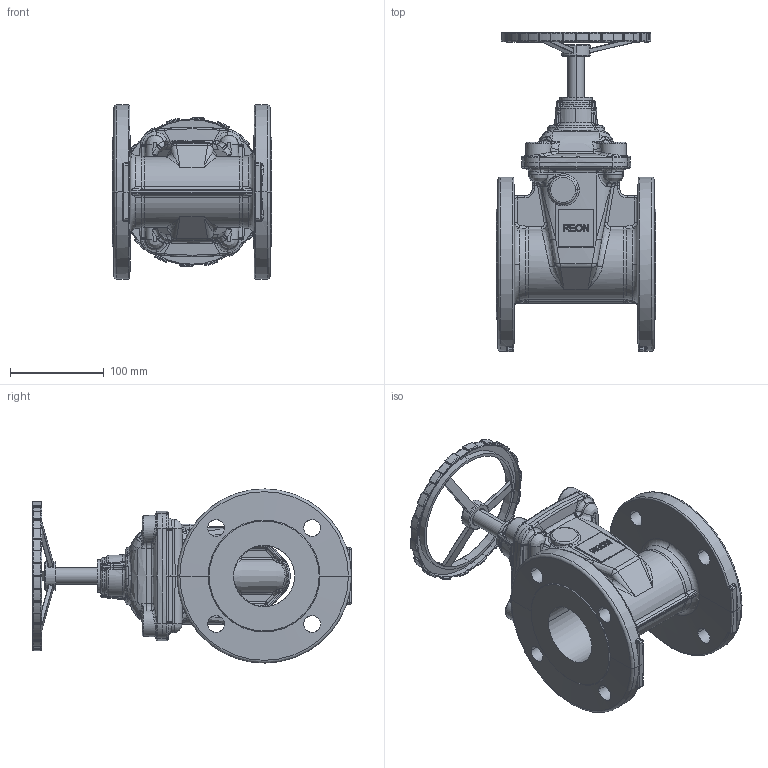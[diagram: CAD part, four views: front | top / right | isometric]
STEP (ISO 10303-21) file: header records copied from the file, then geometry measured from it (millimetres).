
FILE_DESCRIPTION (( 'STEP AP203' ), '1' );
FILE_NAME ('DN65掅概.STEP', '2026-09-16T03:15:28', ( 'Windows 蚚誧' ), ( 'Microsoft' ), 'SwSTEP 2.0', 'SolidWorks 2022', '' );
FILE_SCHEMA (( 'CONFIG_CONTROL_DESIGN' ));
Length unit declared in the file: millimetre
Products named in the file (8): DN65阀杆; DN65阀盖; DN65阀体; D160手轮; hexagon socket head cap screws gb_GB_FASTENER_SCREWS_HSHCS M12X20-N; DN65上铜母; DN65闸阀; DN65阀板
Assembly tree (11 placements, depth 2):
  DN65闸阀
    DN65阀体
    DN65阀盖
    DN65阀板  x2
    DN65上铜母
    D160手轮
    DN65阀杆
    hexagon socket head cap screws gb_GB_FASTENER_SCREWS_HSHCS M12X20-N  x4
Bounding box: 170 x 340.52 x 185.93 mm (x, y, z)
Volume: 1593988.8 mm3; surface area: 401146.3 mm2
Topology: 11 solids, 11 shells, 2312 faces, 5427 edges, 3030 vertices
Faces by surface type: bspline 1225, cylinder 578, plane 320, torus 121, cone 42, sphere 26
Entity records: 109270 total; most frequent: CARTESIAN_POINT 73130, ORIENTED_EDGE 9348, EDGE_CURVE 4674, DIRECTION 4522, VERTEX_POINT 2664, B_SPLINE_CURVE_WITH_KNOTS 2261, EDGE_LOOP 2098, FACE_OUTER_BOUND 2041
